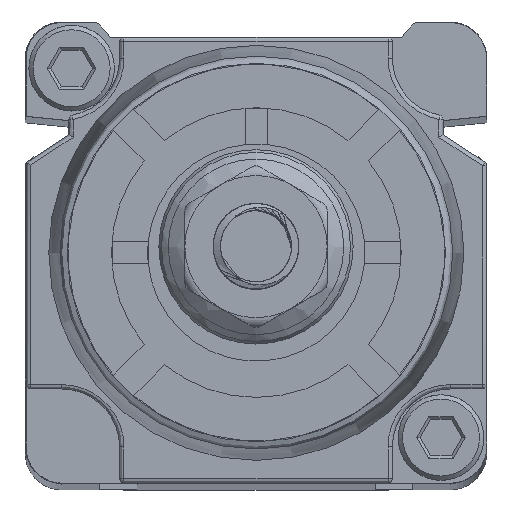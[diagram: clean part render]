
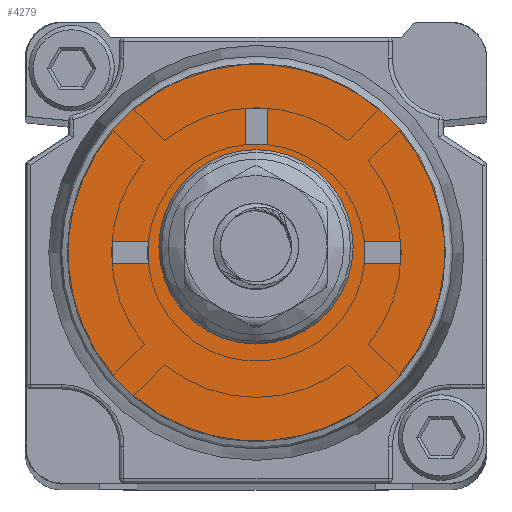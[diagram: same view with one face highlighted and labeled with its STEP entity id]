
A CAD part, top view. The second image highlights one B-rep face of the part: STEP entity #4279.
In plain terms, the highlighted planar face has unit normal (0, 0, 1).
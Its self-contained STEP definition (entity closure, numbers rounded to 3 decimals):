
#362=FACE_BOUND('',#5797,.T.);
#363=FACE_BOUND('',#5798,.T.);
#364=FACE_BOUND('',#5799,.T.);
#365=FACE_BOUND('',#5800,.T.);
#366=FACE_BOUND('',#5801,.T.);
#696=PLANE('',#14544);
#1741=LINE('',#23151,#3114);
#1744=LINE('',#23157,#3117);
#1747=LINE('',#23163,#3120);
#1749=LINE('',#23166,#3122);
#1756=LINE('',#23189,#3129);
#1760=LINE('',#23196,#3133);
#1762=LINE('',#23200,#3135);
#1764=LINE('',#23203,#3137);
#1765=LINE('',#23213,#3138);
#1766=LINE('',#23216,#3139);
#1767=LINE('',#23218,#3140);
#1768=LINE('',#23220,#3141);
#3114=VECTOR('',#16793,1.);
#3117=VECTOR('',#16798,1.);
#3120=VECTOR('',#16803,1.);
#3122=VECTOR('',#16807,1.);
#3129=VECTOR('',#16828,1.);
#3133=VECTOR('',#16834,1.);
#3135=VECTOR('',#16838,1.);
#3137=VECTOR('',#16842,1.);
#3138=VECTOR('',#16855,1.);
#3139=VECTOR('',#16856,1.);
#3140=VECTOR('',#16857,1.);
#3141=VECTOR('',#16858,1.);
#4279=ADVANCED_FACE('',(#362,#363,#364,#365,#366),#696,.T.);
#5797=EDGE_LOOP('',(#7925));
#5798=EDGE_LOOP('',(#7926,#7927,#7928,#7929));
#5799=EDGE_LOOP('',(#7930,#7931,#7932,#7933));
#5800=EDGE_LOOP('',(#7934,#7935,#7936,#7937));
#5801=EDGE_LOOP('',(#7938));
#7925=ORIENTED_EDGE('',*,*,#12338,.F.);
#7926=ORIENTED_EDGE('',*,*,#12348,.F.);
#7927=ORIENTED_EDGE('',*,*,#12351,.F.);
#7928=ORIENTED_EDGE('',*,*,#12354,.F.);
#7929=ORIENTED_EDGE('',*,*,#12356,.F.);
#7930=ORIENTED_EDGE('',*,*,#12379,.F.);
#7931=ORIENTED_EDGE('',*,*,#12380,.F.);
#7932=ORIENTED_EDGE('',*,*,#12381,.F.);
#7933=ORIENTED_EDGE('',*,*,#12382,.F.);
#7934=ORIENTED_EDGE('',*,*,#12367,.F.);
#7935=ORIENTED_EDGE('',*,*,#12371,.F.);
#7936=ORIENTED_EDGE('',*,*,#12373,.F.);
#7937=ORIENTED_EDGE('',*,*,#12375,.F.);
#7938=ORIENTED_EDGE('',*,*,#12378,.F.);
#10781=VERTEX_POINT('',#23128);
#10790=VERTEX_POINT('',#23150);
#10791=VERTEX_POINT('',#23152);
#10792=VERTEX_POINT('',#23156);
#10794=VERTEX_POINT('',#23162);
#10803=VERTEX_POINT('',#23188);
#10804=VERTEX_POINT('',#23190);
#10805=VERTEX_POINT('',#23195);
#10806=VERTEX_POINT('',#23199);
#10809=VERTEX_POINT('',#23211);
#10810=VERTEX_POINT('',#23214);
#10811=VERTEX_POINT('',#23215);
#10812=VERTEX_POINT('',#23217);
#10813=VERTEX_POINT('',#23219);
#12338=EDGE_CURVE('',#10781,#10781,#13749,.T.);
#12348=EDGE_CURVE('',#10790,#10791,#1741,.T.);
#12351=EDGE_CURVE('',#10792,#10790,#1744,.T.);
#12354=EDGE_CURVE('',#10794,#10792,#1747,.T.);
#12356=EDGE_CURVE('',#10791,#10794,#1749,.T.);
#12367=EDGE_CURVE('',#10803,#10804,#1756,.T.);
#12371=EDGE_CURVE('',#10805,#10803,#1760,.T.);
#12373=EDGE_CURVE('',#10806,#10805,#1762,.T.);
#12375=EDGE_CURVE('',#10804,#10806,#1764,.T.);
#12378=EDGE_CURVE('',#10809,#10809,#13760,.T.);
#12379=EDGE_CURVE('',#10810,#10811,#1765,.T.);
#12380=EDGE_CURVE('',#10812,#10810,#1766,.T.);
#12381=EDGE_CURVE('',#10813,#10812,#1767,.T.);
#12382=EDGE_CURVE('',#10811,#10813,#1768,.T.);
#13749=CIRCLE('',#14516,3.993);
#13760=CIRCLE('',#14542,13.037);
#14516=AXIS2_PLACEMENT_3D('',#23127,#16770,#16771);
#14542=AXIS2_PLACEMENT_3D('',#23210,#16851,#16852);
#14544=AXIS2_PLACEMENT_3D('',#23221,#16859,#16860);
#16770=DIRECTION('',(0.,0.,1.));
#16771=DIRECTION('',(1.,0.,0.));
#16793=DIRECTION('',(0.,-1.,0.));
#16798=DIRECTION('',(-1.,0.,0.));
#16803=DIRECTION('',(0.,1.,0.));
#16807=DIRECTION('',(1.,0.,0.));
#16828=DIRECTION('',(0.,1.,0.));
#16834=DIRECTION('',(1.,0.,0.));
#16838=DIRECTION('',(0.,-1.,0.));
#16842=DIRECTION('',(-1.,0.,0.));
#16851=DIRECTION('',(0.,0.,-1.));
#16852=DIRECTION('',(-1.,0.,0.));
#16855=DIRECTION('',(1.,0.,0.));
#16856=DIRECTION('',(0.,-1.,0.));
#16857=DIRECTION('',(-1.,0.,0.));
#16858=DIRECTION('',(0.,1.,0.));
#16859=DIRECTION('',(0.,0.,1.));
#16860=DIRECTION('',(1.,0.,0.));
#23127=CARTESIAN_POINT('',(350.023,-15.873,-33.036));
#23128=CARTESIAN_POINT('',(354.016,-15.873,-33.036));
#23150=CARTESIAN_POINT('',(349.274,-5.928,-33.036));
#23151=CARTESIAN_POINT('',(349.274,-5.928,-33.036));
#23152=CARTESIAN_POINT('',(349.274,-8.424,-33.036));
#23156=CARTESIAN_POINT('',(350.771,-5.928,-33.036));
#23157=CARTESIAN_POINT('',(350.771,-5.928,-33.036));
#23162=CARTESIAN_POINT('',(350.771,-8.424,-33.036));
#23163=CARTESIAN_POINT('',(350.771,-8.424,-33.036));
#23166=CARTESIAN_POINT('',(349.274,-8.424,-33.036));
#23188=CARTESIAN_POINT('',(359.967,-16.621,-33.036));
#23189=CARTESIAN_POINT('',(359.967,-16.621,-33.036));
#23190=CARTESIAN_POINT('',(359.967,-15.124,-33.036));
#23195=CARTESIAN_POINT('',(357.472,-16.621,-33.036));
#23196=CARTESIAN_POINT('',(357.472,-16.621,-33.036));
#23199=CARTESIAN_POINT('',(357.472,-15.124,-33.036));
#23200=CARTESIAN_POINT('',(357.472,-15.124,-33.036));
#23203=CARTESIAN_POINT('',(359.967,-15.124,-33.036));
#23210=CARTESIAN_POINT('',(350.023,-15.873,-33.036));
#23211=CARTESIAN_POINT('',(336.986,-15.873,-33.036));
#23213=CARTESIAN_POINT('',(340.078,-16.621,-33.036));
#23214=CARTESIAN_POINT('',(340.078,-16.621,-33.036));
#23215=CARTESIAN_POINT('',(342.574,-16.621,-33.036));
#23216=CARTESIAN_POINT('',(340.078,-15.124,-33.036));
#23217=CARTESIAN_POINT('',(340.078,-15.124,-33.036));
#23218=CARTESIAN_POINT('',(342.574,-15.124,-33.036));
#23219=CARTESIAN_POINT('',(342.574,-15.124,-33.036));
#23220=CARTESIAN_POINT('',(342.574,-16.621,-33.036));
#23221=CARTESIAN_POINT('',(350.023,-15.873,-33.036));
